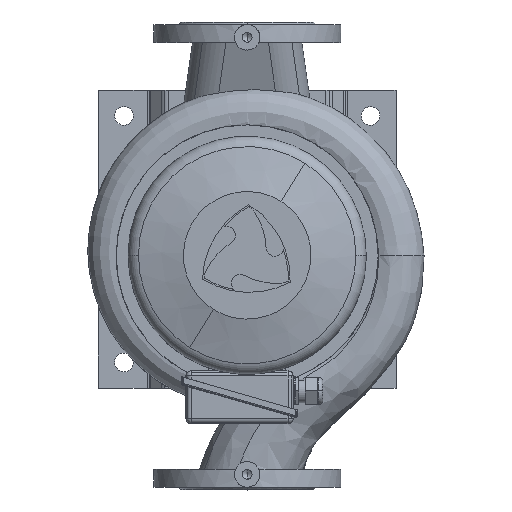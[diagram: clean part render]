
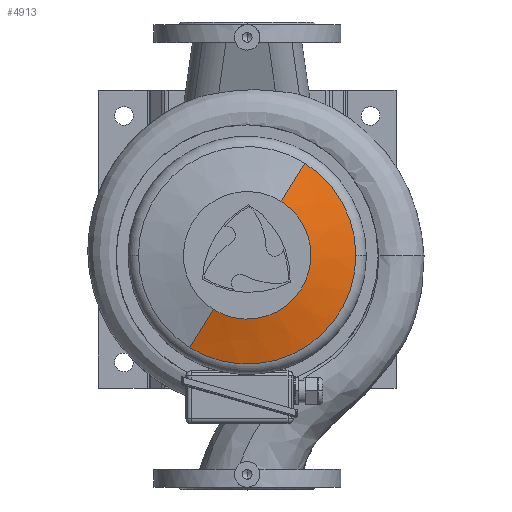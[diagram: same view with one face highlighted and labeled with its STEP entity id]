
A CAD part, top view. The second image highlights one B-rep face of the part: STEP entity #4913.
In plain terms, the highlighted conical face has half-angle 75 degrees and reference radius 101.423 mm.
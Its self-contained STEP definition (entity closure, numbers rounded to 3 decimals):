
#4913=ADVANCED_FACE('',(#10385),#10386,.T.);
#4929=EDGE_CURVE('',#10413,#10395,#10414,.T.);
#5103=EDGE_CURVE('',#10399,#10413,#10647,.T.);
#5105=EDGE_CURVE('',#10403,#10402,#10649,.T.);
#10385=FACE_OUTER_BOUND('',#21472,.T.);
#10386=CONICAL_SURFACE('',#21473,101.423,1.309);
#10395=VERTEX_POINT('',#21483);
#10399=VERTEX_POINT('',#21488);
#10402=VERTEX_POINT('',#21492);
#10403=VERTEX_POINT('',#21493);
#10413=VERTEX_POINT('',#21506);
#10414=CIRCLE('',#21507,127.845);
#10647=CIRCLE('',#21865,127.845);
#10649=CIRCLE('',#21868,75.0);
#21472=EDGE_LOOP('',(#32102,#32103,#32104,#32105,#32106));
#21473=AXIS2_PLACEMENT_3D('',#32107,#32108,#32109);
#21483=CARTESIAN_POINT('',(51.325,133.145,333.86));
#21488=CARTESIAN_POINT('',(-84.025,-83.785,333.86));
#21492=CARTESIAN_POINT('',(23.351,88.31,348.02));
#21493=CARTESIAN_POINT('',(-56.051,-38.95,348.02));
#21506=CARTESIAN_POINT('',(111.495,24.68,333.86));
#21507=AXIS2_PLACEMENT_3D('',#32140,#32141,#32142);
#21865=AXIS2_PLACEMENT_3D('',#32325,#32326,#32327);
#21868=AXIS2_PLACEMENT_3D('',#32328,#32329,#32330);
#32102=ORIENTED_EDGE('',*,*,#37484,.T.);
#32103=ORIENTED_EDGE('',*,*,#5105,.F.);
#32104=ORIENTED_EDGE('',*,*,#37485,.T.);
#32105=ORIENTED_EDGE('',*,*,#5103,.T.);
#32106=ORIENTED_EDGE('',*,*,#4929,.T.);
#32107=CARTESIAN_POINT('',(-16.35,24.68,340.94));
#32108=DIRECTION('',(-0.0,0.0,-1.0));
#32109=DIRECTION('',(0.529,0.848,0.0));
#32140=CARTESIAN_POINT('',(-16.35,24.68,333.86));
#32141=DIRECTION('',(0.0,-0.0,1.0));
#32142=DIRECTION('',(0.529,0.848,0.0));
#32325=CARTESIAN_POINT('',(-16.35,24.68,333.86));
#32326=DIRECTION('',(0.0,-0.0,1.0));
#32327=DIRECTION('',(0.529,0.848,0.0));
#32328=CARTESIAN_POINT('',(-16.35,24.68,348.02));
#32329=DIRECTION('',(0.0,-0.0,1.0));
#32330=DIRECTION('',(0.529,0.848,0.0));
#37484=EDGE_CURVE('',#10395,#10402,#38813,.T.);
#37485=EDGE_CURVE('',#10403,#10399,#38814,.T.);
#38813=LINE('',#40398,#40399);
#38814=LINE('',#40400,#40401);
#40398=CARTESIAN_POINT('',(37.338,110.727,340.94));
#40399=VECTOR('',#44048,1.0);
#40400=CARTESIAN_POINT('',(-70.038,-61.367,340.94));
#40401=VECTOR('',#44049,1.0);
#44048=DIRECTION('',(-0.511,-0.819,0.259));
#44049=DIRECTION('',(-0.511,-0.819,-0.259));
